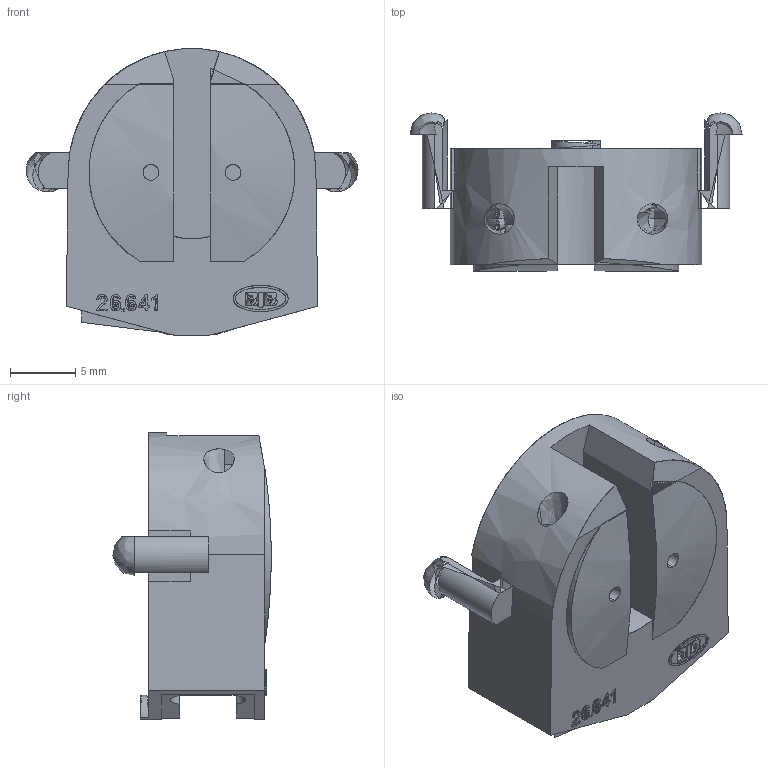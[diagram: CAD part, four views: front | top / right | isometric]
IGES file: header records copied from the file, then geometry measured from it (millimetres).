
Global section: file name: C:\Programme\CoreTechnologie\in\00BYA0LY07.igs; native system: CT CoreTechnologie 3D Evolution; preprocessor: 2005; author: assmuth; date: 061208.102815; units: millimetre
Bounding box: 25.45 x 12.15 x 21.99 mm (x, y, z)
Surface area: 1990.9 mm2 (no closed solid volume)
Topology: 0 solids, 0 shells, 251 faces, 1228 edges, 1196 vertices
Faces by surface type: bspline 251
